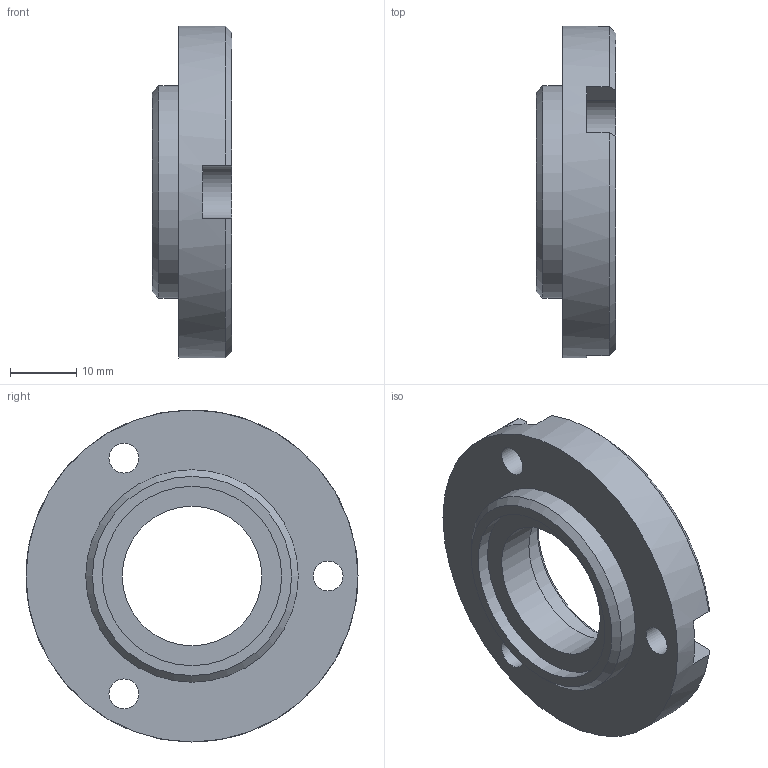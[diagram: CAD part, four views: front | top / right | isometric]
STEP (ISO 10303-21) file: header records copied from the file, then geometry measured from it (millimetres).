
FILE_DESCRIPTION(/* description */ (''),/* implementation_level */ '2;1');
FILE_NAME(/* name */ '',/* time_stamp */ '2025-10-01T16:40:50+09:00',/* author */ ('jhkim'),/* organization */ (''),/* preprocessor_version */ 'ST-DEVELOPER v20.1',/* originating_system */ 'Autodesk Inventor 2026',/* authorisation */ '');
FILE_SCHEMA (('AUTOMOTIVE_DESIGN { 1 0 10303 214 3 1 1 }'));
Length unit declared in the file: millimetre
Products named in the file (1): 커버
Bounding box: 12 x 50 x 50 mm (x, y, z)
Volume: 12623.5 mm3; surface area: 5847 mm2
Topology: 1 solids, 1 shells, 30 faces, 75 edges, 50 vertices
Faces by surface type: plane 14, cylinder 11, cone 5
Full cylindrical faces by diameter (mm): 4.5 x3, 21 x1, 25 x1, 27 x1, 32 x1, 50 x1
Entity records: 967 total; most frequent: CARTESIAN_POINT 168, DIRECTION 166, ORIENTED_EDGE 150, EDGE_CURVE 75, AXIS2_PLACEMENT_3D 66, VERTEX_POINT 50, EDGE_LOOP 41, CIRCLE 35
